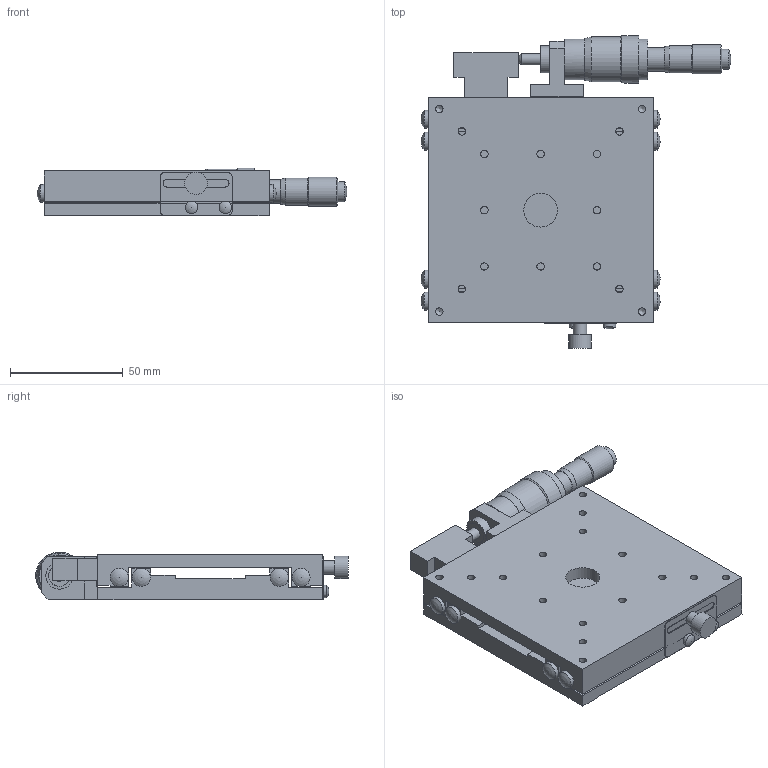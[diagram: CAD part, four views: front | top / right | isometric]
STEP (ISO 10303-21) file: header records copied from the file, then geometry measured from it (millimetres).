
FILE_DESCRIPTION( ( 'STEP AP214' ), '1' );
FILE_NAME( 'C:/Project/3D_B11-100DR-配布-070508.stp', '2007-05-08T10:42:29', ( ' ' ), ( ' ' ), 'XStep 1.0', ' ', ' ' );
FILE_SCHEMA( ( 'automotive_design' ) );
Length unit declared in the file: millimetre
Products named in the file (4): 1; 2; 3; 4
Bounding box: 137.6 x 138.8 x 21.3 mm (x, y, z)
Volume: 195846.2 mm3; surface area: 66178.5 mm2
Topology: 4 solids, 4 shells, 182 faces, 542 edges, 353 vertices
Faces by surface type: plane 91, cylinder 66, cone 13, sphere 12
Full cylindrical faces by diameter (mm): 3 x1, 3.3 x20, 4.5 x4, 5 x2, 5.6 x2, 6 x1, 8 x12, 9 x1, 9.5 x2, 10 x1, 10.5 x2, 12 x2, 13 x1, 15 x1, 18 x2, 20 x1, 21 x1
Entity records: 6561 total; most frequent: DIRECTION 872, CARTESIAN_POINT 862, ORIENTED_EDGE 748, EDGE_CURVE 374, AXIS2_PLACEMENT_3D 316, EDGE_LOOP 300, VERTEX_POINT 282, LINE 240
